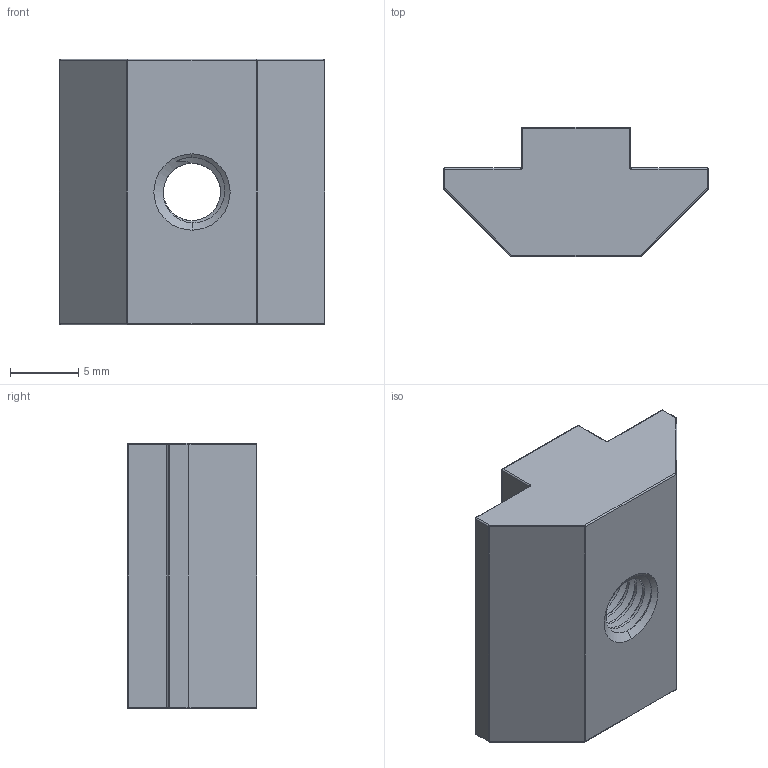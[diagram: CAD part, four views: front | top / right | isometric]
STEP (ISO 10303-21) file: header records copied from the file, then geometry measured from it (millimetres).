
FILE_DESCRIPTION (( 'STEP AP203' ), '1' );
FILE_NAME ('TANLN-AL-40-M5.STEP', '2026-08-25T08:14:58', ( '' ), ( '' ), 'SwSTEP 2.0', 'SolidWorks 2020', '' );
FILE_SCHEMA (( 'CONFIG_CONTROL_DESIGN' ));
Length unit declared in the file: millimetre
Products named in the file (1): TANLN-AL-40-M5
Bounding box: 19.5 x 9.5 x 19.5 mm (x, y, z)
Volume: 2291.6 mm3; surface area: 1435.7 mm2
Topology: 1 solids, 1 shells, 92 faces, 224 edges, 122 vertices
Faces by surface type: cylinder 53, sphere 16, plane 12, cone 4, torus 4, bspline 3
Entity records: 4880 total; most frequent: CARTESIAN_POINT 2851, ORIENTED_EDGE 424, DIRECTION 408, EDGE_CURVE 212, AXIS2_PLACEMENT_3D 161, VERTEX_POINT 122, EDGE_LOOP 94, FACE_OUTER_BOUND 92
